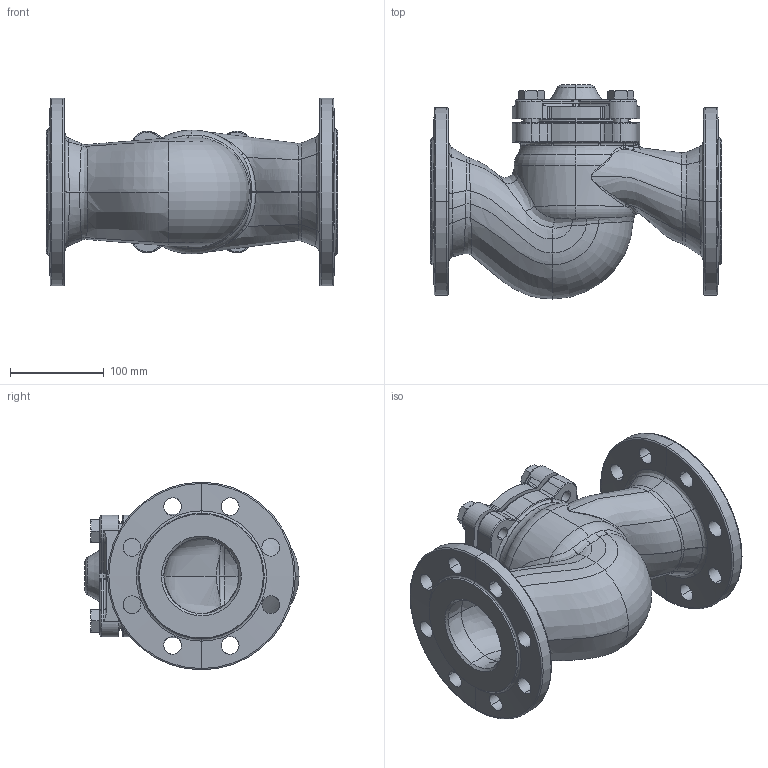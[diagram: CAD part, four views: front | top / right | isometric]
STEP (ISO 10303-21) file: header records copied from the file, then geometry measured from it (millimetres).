
FILE_DESCRIPTION (( 'STEP AP214' ), '1' );
FILE_NAME ('TCV_DN80 PN16.STEP', '2024-08-15T12:28:17', ( '' ), ( '' ), 'SwSTEP 2.0', 'SolidWorks 2023', '' );
FILE_SCHEMA (( 'AUTOMOTIVE_DESIGN' ));
Length unit declared in the file: millimetre
Products named in the file (1): TCV_DN80 PN16
Bounding box: 310 x 228 x 200 mm (x, y, z)
Volume: 2461304.8 mm3; surface area: 426674.2 mm2
Topology: 6 solids, 6 shells, 645 faces, 1592 edges, 946 vertices
Faces by surface type: bspline 232, cylinder 158, plane 110, torus 77, cone 58, sphere 10
Entity records: 143645 total; most frequent: CARTESIAN_POINT 130634, ORIENTED_EDGE 3144, DIRECTION 1917, EDGE_CURVE 1572, VERTEX_POINT 946, B_SPLINE_CURVE_WITH_KNOTS 837, AXIS2_PLACEMENT_3D 789, EDGE_LOOP 704
